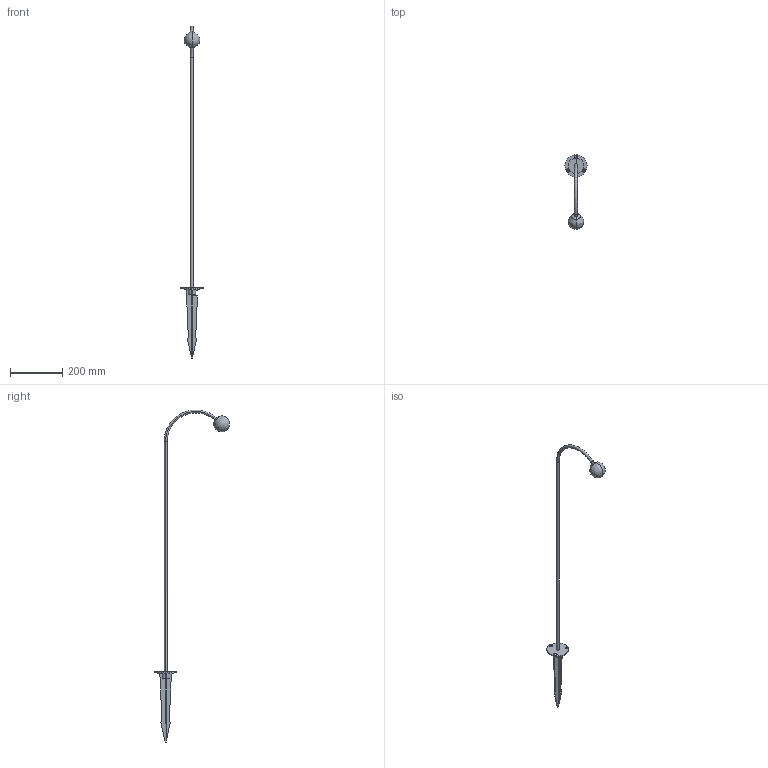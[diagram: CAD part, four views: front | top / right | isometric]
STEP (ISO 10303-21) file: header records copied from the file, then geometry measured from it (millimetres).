
FILE_DESCRIPTION(/* description */ (''),/* implementation_level */ '2;1');
FILE_NAME(/* name */ '75589.step',/* time_stamp */ '2024-10-24T13:46:06+02:00',/* author */ ('RenataManzini'),/* organization */ (''),/* preprocessor_version */ 'ST-DEVELOPER v20',/* originating_system */ 'AutoCAD Mechanical',/* authorisation */ '');
FILE_SCHEMA (('AUTOMOTIVE_DESIGN { 1 0 10303 214 3 1 1 }'));
Length unit declared in the file: millimetre
Products named in the file (1): Product
Bounding box: 85 x 286.78 x 1268.92 mm (x, y, z)
Volume: 344739.8 mm3; surface area: 112959.2 mm2
Topology: 10 solids, 10 shells, 94 faces, 182 edges, 106 vertices
Faces by surface type: plane 52, cylinder 22, cone 14, bspline 4, torus 2
Entity records: 2511 total; most frequent: CARTESIAN_POINT 572, DIRECTION 413, ORIENTED_EDGE 358, EDGE_CURVE 179, AXIS2_PLACEMENT_3D 152, LINE 109, VECTOR 109, VERTEX_POINT 105
